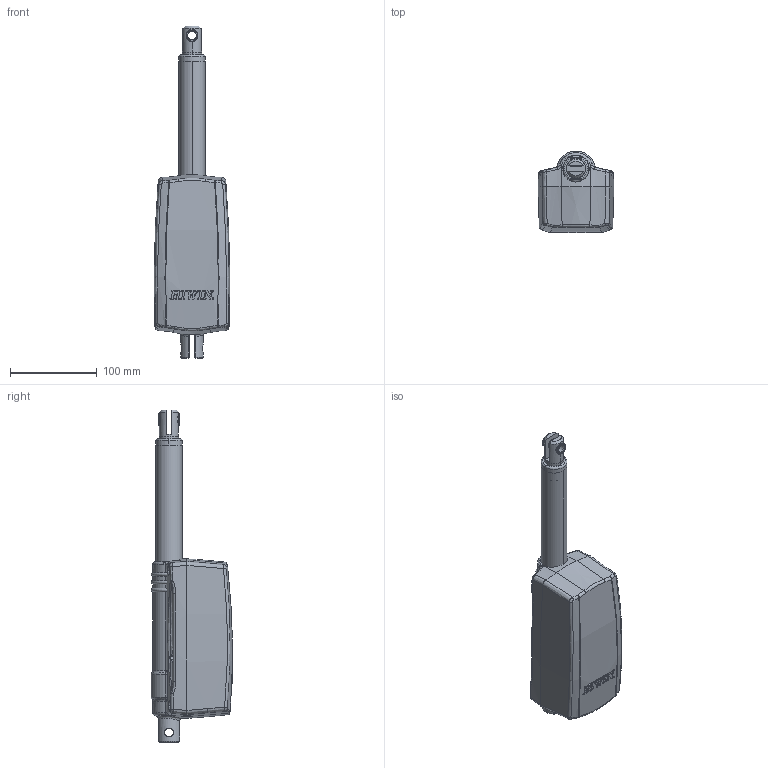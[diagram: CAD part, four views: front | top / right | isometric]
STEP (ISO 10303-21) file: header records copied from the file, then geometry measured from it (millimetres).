
FILE_DESCRIPTION((''),'2;1');
FILE_NAME('LAN4-S100_ASM','2007-07-12T',('amyliao'),(''),'PRO/ENGINEER BY PARAMETRIC TECHNOLOGY CORPORATION, 2003210','PRO/ENGINEER BY PARAMETRIC TECHNOLOGY CORPORATION, 2003210','');
FILE_SCHEMA(('CONFIG_CONTROL_DESIGN'));
Length unit declared in the file: millimetre
Products named in the file (9): COVER02; 04; 03; 01; 02; 05; N4-OUT-TUBE_ASM; COVER01; LAN4-S100_ASM
Assembly tree (9 placements, depth 3):
  LAN4-S100_ASM
    COVER02
    N4-OUT-TUBE_ASM
      04
      03
      01
      02
      05  x2
    COVER01
Bounding box: 86.98 x 94.2 x 382 mm (x, y, z)
Volume: 388203.8 mm3; surface area: 219213.7 mm2
Topology: 8 solids, 8 shells, 623 faces, 1609 edges, 1024 vertices
Faces by surface type: plane 213, cylinder 128, bspline 112, extrusion 92, cone 43, torus 19, sphere 16
Entity records: 25087 total; most frequent: CARTESIAN_POINT 11594, ORIENTED_EDGE 3174, DIRECTION 2073, EDGE_CURVE 1587, VERTEX_POINT 1010, B_SPLINE_CURVE_WITH_KNOTS 872, AXIS2_PLACEMENT_3D 742, EDGE_LOOP 661
